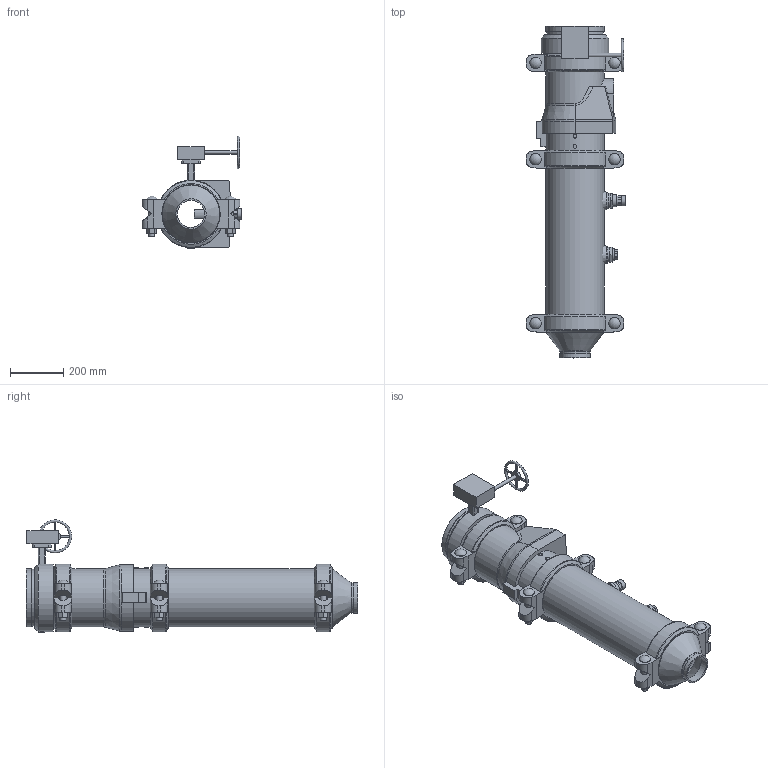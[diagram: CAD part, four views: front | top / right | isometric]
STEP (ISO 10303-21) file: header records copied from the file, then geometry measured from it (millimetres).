
FILE_DESCRIPTION(/* description */ ('VIC DVI PUMP DROP VERT S/380G (OGS)','CAx-IF Rec.Pracs.---Representation and Presentation of Product Manufacturing Information (PMI)---4.0---2014-10-13'),/* implementation_level */ '2;1');
FILE_NAME(/* name */ 'C:\Users\Public\Documents\Victaulic.Temp\A958\Victaulic_IPS_Vertical DVI_Series 380G (OGSxOGS)_08.0x04.0 (200x100).stp',/* time_stamp */ '2022-07-25T12:44:03+02:00',/* author */ ('Vjadhav'),/* organization */ ('Victaulic'),/* preprocessor_version */ 'ST-DEVELOPER v18',/* originating_system */ 'Autodesk Inventor 2020',/* authorisation */ '');
FILE_SCHEMA (('AP242_MANAGED_MODEL_BASED_3D_ENGINEERING_MIM_LF { 1 0 10303 442 1 1 4 }'));
Length unit declared in the file: inch
Products named in the file (8): 380G-08.0x04.0; 050-08.0x04.0; Pipe-08.0; 177N-08.0; 779-08.0; 923-04.0x0.75; 924-04.0x0.75; 761-08.0
Assembly tree (9 placements, depth 2):
  380G-08.0x04.0
    050-08.0x04.0
    177N-08.0  x3
    Pipe-08.0
    779-08.0
    923-04.0x0.75
    924-04.0x0.75
    761-08.0
Bounding box: 376.21 x 1249.43 x 422.39 mm (x, y, z)
Volume: 15939559.9 mm3; surface area: 2540945.5 mm2
Topology: 9 solids, 10 shells, 546 faces, 1457 edges, 972 vertices
Faces by surface type: plane 331, cylinder 168, cone 20, torus 19, sphere 6, bspline 2
Full cylindrical faces by diameter (mm): 8.636 x4, 12.446 x1, 12.7 x1, 13.716 x4, 22.225 x6, 22.86 x1, 26.67 x2, 38.608 x1, 39.125 x1, 42.85 x6, 45.974 x4, 55.118 x1, 55.626 x2, 102.26 x1, 110.084 x1, 114.3 x2, 202.717 x4, 206.375 x3, 214.401 x7, 219.075 x19, 254 x1
Entity records: 12789 total; most frequent: CARTESIAN_POINT 2716, DIRECTION 2061, ORIENTED_EDGE 1910, EDGE_CURVE 955, AXIS2_PLACEMENT_3D 785, VERTEX_POINT 644, LINE 491, VECTOR 491
